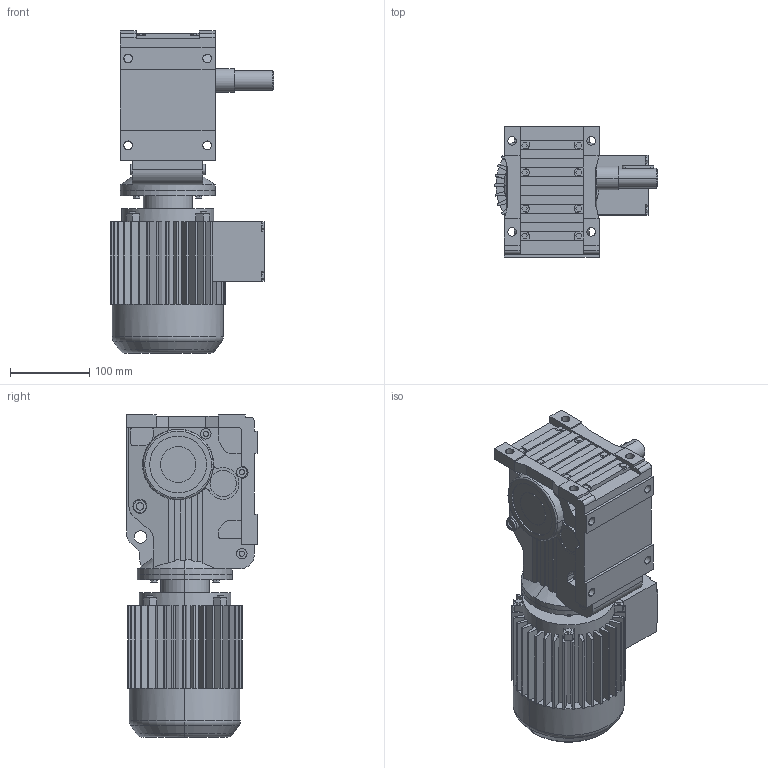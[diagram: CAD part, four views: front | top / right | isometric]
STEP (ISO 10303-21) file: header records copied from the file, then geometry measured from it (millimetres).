
FILE_DESCRIPTION(('Open CASCADE Model'),'2;1');
FILE_NAME('Open CASCADE Shape Model','2021-06-21T17:00:11',('Author'),( 'Open CASCADE'),'Open CASCADE STEP processor 6.3','Open CASCADE 6.3' ,'Unknown');
FILE_SCHEMA(('AUTOMOTIVE_DESIGN_CC2 { 1 2 10303 214 -1 1 5 4 }'));
Length unit declared in the file: millimetre
Products named in the file (4): 1_K37DT71D-A; K37‵157_37.step; 萇儂_120-DT71D-206-269-145-122.step; す瑩妗陑粣K_37.step
Assembly tree (3 placements, depth 2):
  1_K37DT71D-A
    K37‵157_37.step
    萇儂_120-DT71D-206-269-145-122.step
    す瑩妗陑粣K_37.step
Bounding box: 206.5 x 165 x 408 mm (x, y, z)
Volume: 5768187.8 mm3; surface area: 442486 mm2
Topology: 3 solids, 3 shells, 836 faces, 2204 edges, 1431 vertices
Faces by surface type: plane 582, cylinder 231, cone 15, torus 8
Entity records: 57198 total; most frequent: CARTESIAN_POINT 15317, DIRECTION 7217, ORIENTED_EDGE 4404, PCURVE 4404, DEFINITIONAL_REPRESENTATION 4404, LINE 3932, VECTOR 3932, EDGE_CURVE 2202
